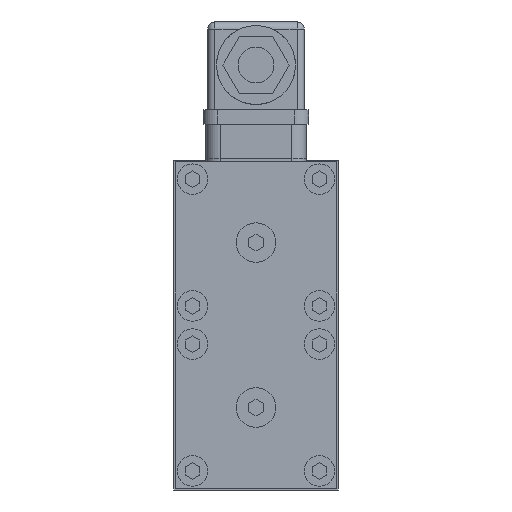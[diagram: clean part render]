
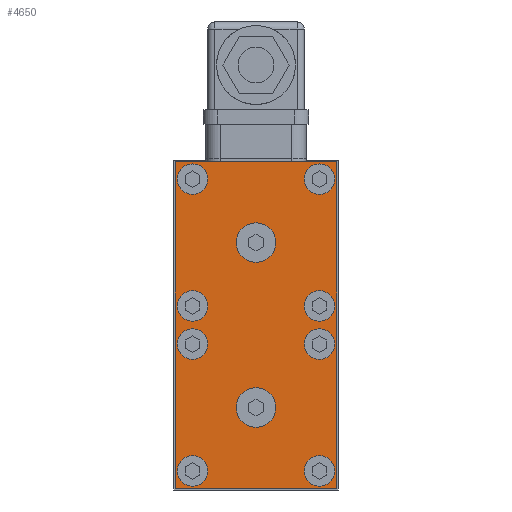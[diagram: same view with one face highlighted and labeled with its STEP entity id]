
A CAD part, left-side view. The second image highlights one B-rep face of the part: STEP entity #4650.
In plain terms, the highlighted planar face has unit normal (-1, 0, 0).
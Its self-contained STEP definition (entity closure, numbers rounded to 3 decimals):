
#4650=ADVANCED_FACE('', (#4660,#4670,#4680,#4690,#4700,#4710,#4720,
#4730,#4740,#4750,#4760), #4770, .T.);
#33270=AXIS2_PLACEMENT_3D('Ax2Pl3d', #33280, #33290, #33300);
#33350=AXIS2_PLACEMENT_3D('Ax2Pl3d', #33360, #33370, #33380);
#33390=AXIS2_PLACEMENT_3D('Ax2Pl3d', #33400, #33410, #33420);
#33430=AXIS2_PLACEMENT_3D('Ax2Pl3d', #33440, #33450, #33460);
#33470=AXIS2_PLACEMENT_3D('Ax2Pl3d', #33480, #33490, #33500);
#33510=AXIS2_PLACEMENT_3D('Ax2Pl3d', #33520, #33530, #33540);
#33550=AXIS2_PLACEMENT_3D('Ax2Pl3d', #33560, #33570, #33580);
#33590=AXIS2_PLACEMENT_3D('Ax2Pl3d', #33600, #33610, #33620);
#33630=AXIS2_PLACEMENT_3D('Ax2Pl3d', #33640, #33650, #33660);
#33670=AXIS2_PLACEMENT_3D('Ax2Pl3d', #33680, #33690, #33700);
#33710=AXIS2_PLACEMENT_3D('Ax2Pl3d', #33720, #33730, #33740);
#78420=CARTESIAN_POINT('', (-64.3,0.5,91.5));
#78430=CARTESIAN_POINT('', (-64.3,45.5,91.5));
#78440=CARTESIAN_POINT('', (-64.3,0.5,91.5));
#33280=CARTESIAN_POINT('HicPkt', (-64.3,23.,23.));
#78720=CARTESIAN_POINT('', (-64.3,27.,23.));
#33360=CARTESIAN_POINT('HicPkt', (-64.3,0.5,91.5));
#78740=CARTESIAN_POINT('', (-64.3,0.5,0.5));
#78750=CARTESIAN_POINT('', (-64.3,0.5,0.5));
#78760=CARTESIAN_POINT('', (-64.3,45.5,91.5));
#78770=CARTESIAN_POINT('', (-64.3,45.5,0.5));
#78780=CARTESIAN_POINT('', (-64.3,0.5,0.5));
#33400=CARTESIAN_POINT('HicPkt', (-64.3,23.,69.));
#78790=CARTESIAN_POINT('', (-64.3,27.,69.));
#33440=CARTESIAN_POINT('HicPkt', (-64.3,40.68,86.68));
#78800=CARTESIAN_POINT('', (-64.3,43.43,86.68));
#33480=CARTESIAN_POINT('HicPkt', (-64.3,5.32,86.68));
#78810=CARTESIAN_POINT('', (-64.3,8.07,86.68));
#33520=CARTESIAN_POINT('HicPkt', (-64.3,5.32,40.68));
#78820=CARTESIAN_POINT('', (-64.3,8.07,40.68));
#33560=CARTESIAN_POINT('HicPkt', (-64.3,40.68,40.68));
#78830=CARTESIAN_POINT('', (-64.3,43.43,40.68));
#33600=CARTESIAN_POINT('HicPkt', (-64.3,40.68,51.32));
#78840=CARTESIAN_POINT('', (-64.3,43.43,51.32));
#33640=CARTESIAN_POINT('HicPkt', (-64.3,5.32,51.32));
#78850=CARTESIAN_POINT('', (-64.3,8.07,51.32));
#33680=CARTESIAN_POINT('HicPkt', (-64.3,5.32,5.32));
#78860=CARTESIAN_POINT('', (-64.3,8.07,5.32));
#33720=CARTESIAN_POINT('HicPkt', (-64.3,40.68,5.32));
#78870=CARTESIAN_POINT('', (-64.3,43.43,5.32));
#96840=CIRCLE('Circle', #33270, 4.);
#96860=CIRCLE('Circle', #33390, 4.);
#96870=CIRCLE('Circle', #33430, 2.75);
#96880=CIRCLE('Circle', #33470, 2.75);
#96890=CIRCLE('Circle', #33510, 2.75);
#96900=CIRCLE('Circle', #33550, 2.75);
#96910=CIRCLE('Circle', #33590, 2.75);
#96920=CIRCLE('Circle', #33630, 2.75);
#96930=CIRCLE('Circle', #33670, 2.75);
#96940=CIRCLE('Circle', #33710, 2.75);
#149050=DIRECTION('', (0.,-1.,0.));
#33290=DIRECTION('Axis', (-1.,0.,0.)
);
#33300=DIRECTION('RefDirection', (0.,
0.,-1.));
#33370=DIRECTION('Axis', (-1.,0.,0.)
);
#33380=DIRECTION('RefDirection', (0.,
0.,-1.));
#149090=DIRECTION('', (0.,0.,-1.));
#149100=DIRECTION('', (0.,0.,1.));
#149110=DIRECTION('', (0.,-1.,0.));
#33410=DIRECTION('Axis', (-1.,0.,0.)
);
#33420=DIRECTION('RefDirection', (0.,
0.,-1.));
#33450=DIRECTION('Axis', (-1.,0.,0.)
);
#33460=DIRECTION('RefDirection', (0.,
0.,-1.));
#33490=DIRECTION('Axis', (-1.,0.,0.)
);
#33500=DIRECTION('RefDirection', (0.,
0.,-1.));
#33530=DIRECTION('Axis', (-1.,0.,0.)
);
#33540=DIRECTION('RefDirection', (0.,
0.,-1.));
#33570=DIRECTION('Axis', (-1.,0.,0.)
);
#33580=DIRECTION('RefDirection', (0.,
0.,-1.));
#33610=DIRECTION('Axis', (-1.,0.,0.)
);
#33620=DIRECTION('RefDirection', (0.,
0.,-1.));
#33650=DIRECTION('Axis', (-1.,0.,0.)
);
#33660=DIRECTION('RefDirection', (0.,
0.,-1.));
#33690=DIRECTION('Axis', (-1.,0.,0.)
);
#33700=DIRECTION('RefDirection', (0.,
0.,-1.));
#33730=DIRECTION('Axis', (-1.,0.,0.)
);
#33740=DIRECTION('RefDirection', (0.,
0.,-1.));
#159090=EDGE_CURVE('', #159100, #159110, #159120, .T.);
#159650=EDGE_CURVE('', #159660, #159660, #96840, .T.);
#159690=EDGE_CURVE('', #159110, #159700, #159710, .T.);
#159720=EDGE_CURVE('', #159730, #159100, #159740, .T.);
#159750=EDGE_CURVE('', #159730, #159700, #159760, .T.);
#159770=EDGE_CURVE('', #159780, #159780, #96860, .T.);
#159790=EDGE_CURVE('', #159800, #159800, #96870, .T.);
#159810=EDGE_CURVE('', #159820, #159820, #96880, .T.);
#159830=EDGE_CURVE('', #159840, #159840, #96890, .T.);
#159850=EDGE_CURVE('', #159860, #159860, #96900, .T.);
#159870=EDGE_CURVE('', #159880, #159880, #96910, .T.);
#159890=EDGE_CURVE('', #159900, #159900, #96920, .T.);
#159910=EDGE_CURVE('', #159920, #159920, #96930, .T.);
#159930=EDGE_CURVE('', #159940, #159940, #96940, .T.);
#192680=EDGE_LOOP('Edge_loop', (#192690,#192700,#192710,#192720));
#192730=EDGE_LOOP('Edge_loop', (#192740));
#192750=EDGE_LOOP('Edge_loop', (#192760));
#192770=EDGE_LOOP('Edge_loop', (#192780));
#192790=EDGE_LOOP('Edge_loop', (#192800));
#192810=EDGE_LOOP('Edge_loop', (#192820));
#192830=EDGE_LOOP('Edge_loop', (#192840));
#192850=EDGE_LOOP('Edge_loop', (#192860));
#192870=EDGE_LOOP('Edge_loop', (#192880));
#192890=EDGE_LOOP('Edge_loop', (#192900));
#192910=EDGE_LOOP('Edge_loop', (#192920));
#4670=FACE_BOUND('', #192730, .T.);
#4680=FACE_BOUND('', #192750, .T.);
#4690=FACE_BOUND('', #192770, .T.);
#4700=FACE_BOUND('', #192790, .T.);
#4710=FACE_BOUND('', #192810, .T.);
#4720=FACE_BOUND('', #192830, .T.);
#4730=FACE_BOUND('', #192850, .T.);
#4740=FACE_BOUND('', #192870, .T.);
#4750=FACE_BOUND('', #192890, .T.);
#4760=FACE_BOUND('', #192910, .T.);
#4660=FACE_OUTER_BOUND('Face_outer_bound', #192680, .T.);
#159120=LINE('Line', #78420, #243060);
#159710=LINE('Line', #78740, #243100);
#159740=LINE('Line', #78760, #243110);
#159760=LINE('Line', #78780, #243120);
#192690=ORIENTED_EDGE('', *, *, #159690, .F.);
#192700=ORIENTED_EDGE('', *, *, #159090, .F.);
#192710=ORIENTED_EDGE('', *, *, #159720, .F.);
#192720=ORIENTED_EDGE('', *, *, #159750, .T.);
#192740=ORIENTED_EDGE('', *, *, #159650, .F.);
#192760=ORIENTED_EDGE('', *, *, #159770, .F.);
#192780=ORIENTED_EDGE('', *, *, #159790, .F.);
#192800=ORIENTED_EDGE('', *, *, #159810, .F.);
#192820=ORIENTED_EDGE('', *, *, #159830, .F.);
#192840=ORIENTED_EDGE('', *, *, #159850, .F.);
#192860=ORIENTED_EDGE('', *, *, #159870, .F.);
#192880=ORIENTED_EDGE('', *, *, #159890, .F.);
#192900=ORIENTED_EDGE('', *, *, #159910, .F.);
#192920=ORIENTED_EDGE('', *, *, #159930, .F.);
#4770=PLANE('Plane', #33350);
#243060=VECTOR('', #149050, 45.);
#243100=VECTOR('', #149090, 91.);
#243110=VECTOR('', #149100, 91.);
#243120=VECTOR('', #149110, 45.);
#159100=VERTEX_POINT('', #78430);
#159110=VERTEX_POINT('', #78440);
#159660=VERTEX_POINT('', #78720);
#159700=VERTEX_POINT('', #78750);
#159730=VERTEX_POINT('', #78770);
#159780=VERTEX_POINT('', #78790);
#159800=VERTEX_POINT('', #78800);
#159820=VERTEX_POINT('', #78810);
#159840=VERTEX_POINT('', #78820);
#159860=VERTEX_POINT('', #78830);
#159880=VERTEX_POINT('', #78840);
#159900=VERTEX_POINT('', #78850);
#159920=VERTEX_POINT('', #78860);
#159940=VERTEX_POINT('', #78870);
